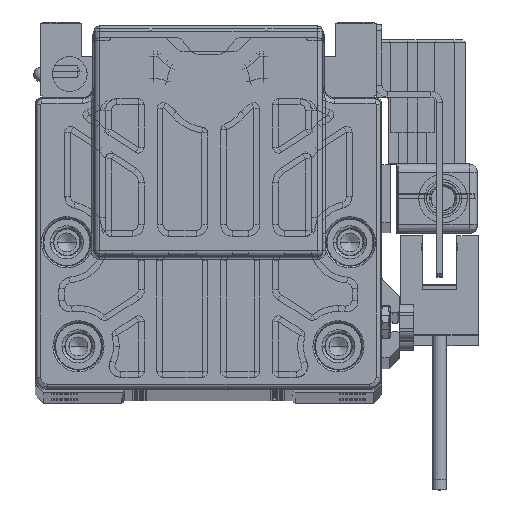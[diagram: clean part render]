
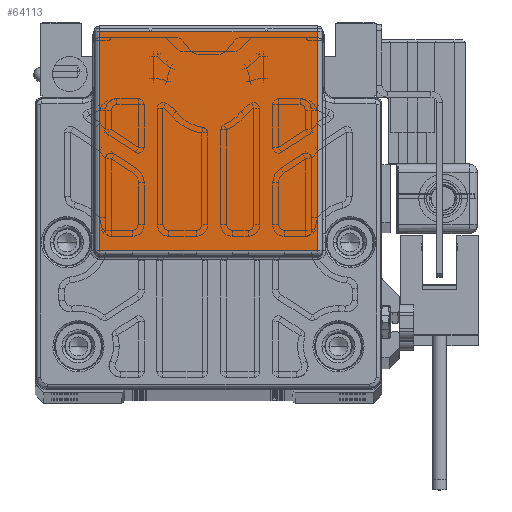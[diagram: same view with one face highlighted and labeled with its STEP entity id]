
A CAD part, top view. The second image highlights one B-rep face of the part: STEP entity #64113.
In plain terms, the highlighted planar face has unit normal (0, 0, 1) as drawn and (0, 0, -1) by its records, which use the part's own axes.
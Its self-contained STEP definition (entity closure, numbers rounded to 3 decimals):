
#401 = DIRECTION ( 'NONE',  ( 1., 0., 0. ) ) ;
#2305 = CARTESIAN_POINT ( 'NONE',  ( -18.808, 62.447, -143. ) ) ;
#2846 = VERTEX_POINT ( 'NONE', #74651 ) ;
#4707 = DIRECTION ( 'NONE',  ( 0., 1., 0. ) ) ;
#6298 = VECTOR ( 'NONE', #33218, 1000. ) ;
#7217 = EDGE_CURVE ( 'NONE', #34104, #31061, #43840, .T. ) ;
#8384 = CARTESIAN_POINT ( 'NONE',  ( 19., 24.518, -143. ) ) ;
#10145 = VECTOR ( 'NONE', #58378, 1000. ) ;
#10526 = VERTEX_POINT ( 'NONE', #55874 ) ;
#13922 = ORIENTED_EDGE ( 'NONE', *, *, #44237, .F. ) ;
#15254 = EDGE_LOOP ( 'NONE', ( #36984, #38492, #13922, #40939 ) ) ;
#17806 = DIRECTION ( 'NONE',  ( 0., 0., -1. ) ) ;
#24101 = AXIS2_PLACEMENT_3D ( 'NONE', #55512, #17806, #4707 ) ;
#26313 = CARTESIAN_POINT ( 'NONE',  ( 18.808, 24.5, -143. ) ) ;
#26922 = EDGE_CURVE ( 'NONE', #10526, #31061, #70203, .T. ) ;
#29312 = VECTOR ( 'NONE', #401, 1000. ) ;
#30480 = PLANE ( 'NONE',  #24101 ) ;
#31061 = VERTEX_POINT ( 'NONE', #66661 ) ;
#32541 = LINE ( 'NONE', #8384, #10145 ) ;
#32855 = DIRECTION ( 'NONE',  ( 0., 1., 0. ) ) ;
#33218 = DIRECTION ( 'NONE',  ( 0., -1., 0. ) ) ;
#34104 = VERTEX_POINT ( 'NONE', #2305 ) ;
#36984 = ORIENTED_EDGE ( 'NONE', *, *, #26922, .F. ) ;
#38160 = LINE ( 'NONE', #51709, #6298 ) ;
#38492 = ORIENTED_EDGE ( 'NONE', *, *, #48248, .F. ) ;
#40939 = ORIENTED_EDGE ( 'NONE', *, *, #7217, .T. ) ;
#43840 = LINE ( 'NONE', #56560, #29312 ) ;
#44237 = EDGE_CURVE ( 'NONE', #34104, #2846, #38160, .T. ) ;
#48248 = EDGE_CURVE ( 'NONE', #2846, #10526, #32541, .T. ) ;
#48747 = VECTOR ( 'NONE', #32855, 1000. ) ;
#51709 = CARTESIAN_POINT ( 'NONE',  ( -18.808, 31., -143. ) ) ;
#55512 = CARTESIAN_POINT ( 'NONE',  ( 19., 24.5, -143. ) ) ;
#55874 = CARTESIAN_POINT ( 'NONE',  ( 18.808, 24.518, -143. ) ) ;
#56560 = CARTESIAN_POINT ( 'NONE',  ( 19., 62.447, -143. ) ) ;
#58378 = DIRECTION ( 'NONE',  ( 1., 0., 0. ) ) ;
#60861 = FACE_OUTER_BOUND ( 'NONE', #15254, .T. ) ;
#64113 = ADVANCED_FACE ( 'NONE', ( #60861 ), #30480, .T. ) ;
#66661 = CARTESIAN_POINT ( 'NONE',  ( 18.808, 62.447, -143. ) ) ;
#70203 = LINE ( 'NONE', #26313, #48747 ) ;
#74651 = CARTESIAN_POINT ( 'NONE',  ( -18.808, 24.518, -143. ) ) ;
